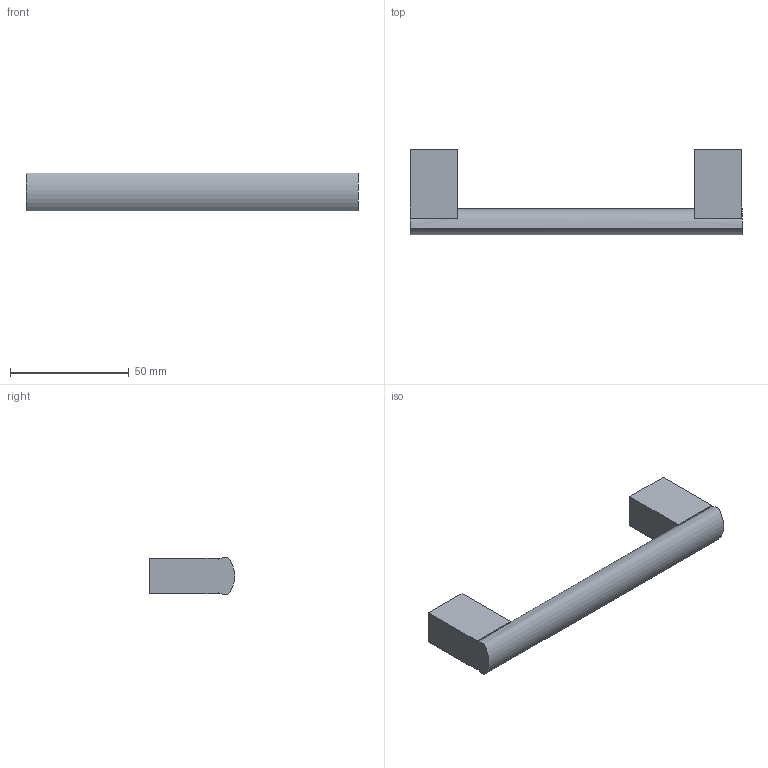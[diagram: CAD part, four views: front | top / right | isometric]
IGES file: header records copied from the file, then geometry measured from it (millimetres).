
Start section: Data from Parasolid IGES Translator 20.0.26, Copyright(c) 2006 Siemens P LM Software. All Rights Reserved.
Global section: file name: 115355.igs; native system: By Siemens PLM Incorporated; preprocessor: XPlus GENERIC/IGES 20.0.26; author: Noname; organization: Noname; date: 20230220.160328; units: millimetre
Bounding box: 140 x 35.96 x 16 mm (x, y, z)
Surface area: 10309.2 mm2 (no closed solid volume)
Topology: 0 solids, 0 shells, 22 faces, 102 edges, 100 vertices
Faces by surface type: extrusion 17, revolution 5
